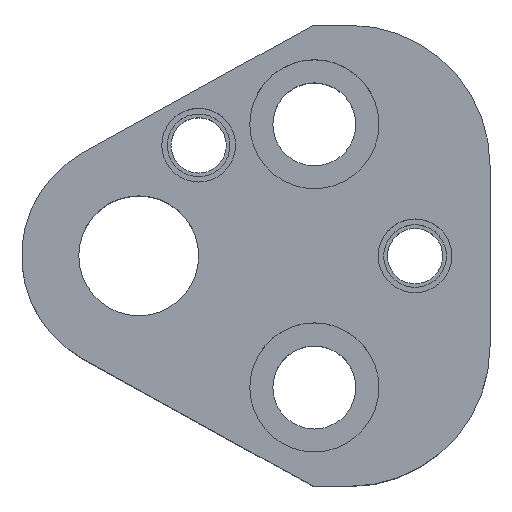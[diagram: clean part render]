
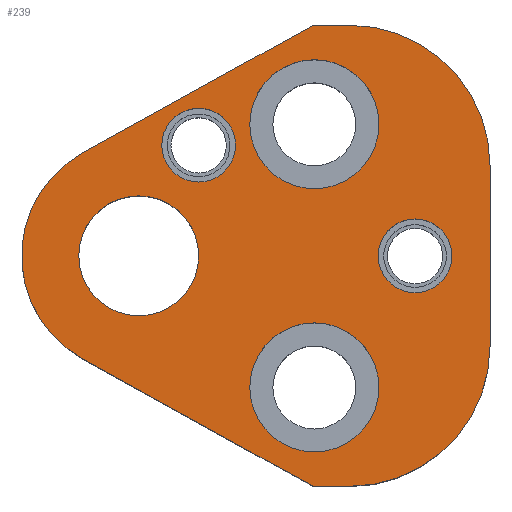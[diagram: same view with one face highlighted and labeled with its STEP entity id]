
A CAD part, top view. The second image highlights one B-rep face of the part: STEP entity #239.
In plain terms, the highlighted planar face has unit normal (0, 0, 1).
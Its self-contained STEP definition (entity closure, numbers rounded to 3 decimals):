
#113=FACE_BOUND('',#339,.T.);
#114=FACE_BOUND('',#340,.T.);
#115=FACE_BOUND('',#341,.T.);
#116=FACE_BOUND('',#342,.T.);
#117=FACE_BOUND('',#343,.T.);
#118=FACE_BOUND('',#344,.T.);
#152=CIRCLE('',#816,15.2);
#154=CIRCLE('',#820,15.2);
#157=CIRCLE('',#826,12.7);
#182=CIRCLE('',#865,4.);
#184=CIRCLE('',#868,4.);
#186=CIRCLE('',#872,4.);
#188=CIRCLE('',#875,4.);
#194=CIRCLE('',#887,7.);
#195=CIRCLE('',#888,7.);
#196=CIRCLE('',#889,7.);
#197=CIRCLE('',#890,7.);
#198=CIRCLE('',#891,6.5);
#199=CIRCLE('',#892,6.5);
#239=ADVANCED_FACE('',(#113,#114,#115,#116,#117,#118),#261,.T.);
#261=PLANE('',#893);
#339=EDGE_LOOP('',(#497,#498,#499,#500,#501,#502,#503,#504));
#340=EDGE_LOOP('',(#505,#506));
#341=EDGE_LOOP('',(#507,#508));
#342=EDGE_LOOP('',(#509,#510));
#343=EDGE_LOOP('',(#511,#512));
#344=EDGE_LOOP('',(#513,#514));
#497=ORIENTED_EDGE('',*,*,#626,.T.);
#498=ORIENTED_EDGE('',*,*,#630,.T.);
#499=ORIENTED_EDGE('',*,*,#633,.T.);
#500=ORIENTED_EDGE('',*,*,#636,.T.);
#501=ORIENTED_EDGE('',*,*,#639,.T.);
#502=ORIENTED_EDGE('',*,*,#642,.T.);
#503=ORIENTED_EDGE('',*,*,#645,.T.);
#504=ORIENTED_EDGE('',*,*,#648,.T.);
#505=ORIENTED_EDGE('',*,*,#703,.F.);
#506=ORIENTED_EDGE('',*,*,#704,.F.);
#507=ORIENTED_EDGE('',*,*,#705,.F.);
#508=ORIENTED_EDGE('',*,*,#706,.F.);
#509=ORIENTED_EDGE('',*,*,#693,.F.);
#510=ORIENTED_EDGE('',*,*,#689,.F.);
#511=ORIENTED_EDGE('',*,*,#687,.F.);
#512=ORIENTED_EDGE('',*,*,#683,.F.);
#513=ORIENTED_EDGE('',*,*,#707,.T.);
#514=ORIENTED_EDGE('',*,*,#708,.T.);
#560=VERTEX_POINT('',#1160);
#561=VERTEX_POINT('',#1162);
#564=VERTEX_POINT('',#1169);
#566=VERTEX_POINT('',#1175);
#568=VERTEX_POINT('',#1181);
#570=VERTEX_POINT('',#1187);
#572=VERTEX_POINT('',#1193);
#574=VERTEX_POINT('',#1199);
#599=VERTEX_POINT('',#1278);
#600=VERTEX_POINT('',#1279);
#603=VERTEX_POINT('',#1291);
#604=VERTEX_POINT('',#1292);
#611=VERTEX_POINT('',#1320);
#612=VERTEX_POINT('',#1321);
#613=VERTEX_POINT('',#1324);
#614=VERTEX_POINT('',#1325);
#615=VERTEX_POINT('',#1328);
#616=VERTEX_POINT('',#1329);
#626=EDGE_CURVE('',#561,#560,#726,.T.);
#630=EDGE_CURVE('',#560,#564,#730,.T.);
#633=EDGE_CURVE('',#564,#566,#152,.T.);
#636=EDGE_CURVE('',#566,#568,#734,.T.);
#639=EDGE_CURVE('',#568,#570,#154,.T.);
#642=EDGE_CURVE('',#570,#572,#738,.T.);
#645=EDGE_CURVE('',#572,#574,#741,.T.);
#648=EDGE_CURVE('',#574,#561,#157,.T.);
#683=EDGE_CURVE('',#599,#600,#182,.T.);
#687=EDGE_CURVE('',#600,#599,#184,.T.);
#689=EDGE_CURVE('',#603,#604,#186,.T.);
#693=EDGE_CURVE('',#604,#603,#188,.T.);
#703=EDGE_CURVE('',#611,#612,#194,.T.);
#704=EDGE_CURVE('',#612,#611,#195,.T.);
#705=EDGE_CURVE('',#613,#614,#196,.T.);
#706=EDGE_CURVE('',#614,#613,#197,.T.);
#707=EDGE_CURVE('',#615,#616,#198,.T.);
#708=EDGE_CURVE('',#616,#615,#199,.T.);
#726=LINE('',#1161,#770);
#730=LINE('',#1170,#774);
#734=LINE('',#1182,#778);
#738=LINE('',#1194,#782);
#741=LINE('',#1200,#785);
#770=VECTOR('',#916,1.);
#774=VECTOR('',#922,1.);
#778=VECTOR('',#934,1.);
#782=VECTOR('',#946,1.);
#785=VECTOR('',#951,1.);
#816=AXIS2_PLACEMENT_3D('',#1176,#927,#928);
#820=AXIS2_PLACEMENT_3D('',#1188,#939,#940);
#826=AXIS2_PLACEMENT_3D('',#1204,#957,#958);
#865=AXIS2_PLACEMENT_3D('',#1277,#1045,#1046);
#868=AXIS2_PLACEMENT_3D('',#1286,#1053,#1054);
#872=AXIS2_PLACEMENT_3D('',#1290,#1061,#1062);
#875=AXIS2_PLACEMENT_3D('',#1299,#1069,#1070);
#887=AXIS2_PLACEMENT_3D('',#1319,#1097,#1098);
#888=AXIS2_PLACEMENT_3D('',#1322,#1099,#1100);
#889=AXIS2_PLACEMENT_3D('',#1323,#1101,#1102);
#890=AXIS2_PLACEMENT_3D('',#1326,#1103,#1104);
#891=AXIS2_PLACEMENT_3D('',#1327,#1105,#1106);
#892=AXIS2_PLACEMENT_3D('',#1330,#1107,#1108);
#893=AXIS2_PLACEMENT_3D('',#1331,#1109,#1110);
#916=DIRECTION('',(0.875,-0.485,0.));
#922=DIRECTION('',(1.,0.,0.));
#927=DIRECTION('',(0.,0.,1.));
#928=DIRECTION('',(-0.707,0.707,0.));
#934=DIRECTION('',(0.,1.,0.));
#939=DIRECTION('',(0.,0.,1.));
#940=DIRECTION('',(-0.707,-0.707,0.));
#946=DIRECTION('',(-1.,0.,0.));
#951=DIRECTION('',(-0.875,-0.485,0.));
#957=DIRECTION('',(0.,0.,1.));
#958=DIRECTION('',(1.,0.,0.));
#1045=DIRECTION('',(0.,0.,1.));
#1046=DIRECTION('',(-1.,0.,0.));
#1053=DIRECTION('',(0.,0.,1.));
#1054=DIRECTION('',(1.,0.,0.));
#1061=DIRECTION('',(0.,0.,1.));
#1062=DIRECTION('',(-1.,0.,0.));
#1069=DIRECTION('',(0.,0.,1.));
#1070=DIRECTION('',(1.,0.,0.));
#1097=DIRECTION('',(0.,0.,1.));
#1098=DIRECTION('',(1.,0.,0.));
#1099=DIRECTION('',(0.,0.,1.));
#1100=DIRECTION('',(-1.,0.,0.));
#1101=DIRECTION('',(0.,0.,1.));
#1102=DIRECTION('',(1.,0.,0.));
#1103=DIRECTION('',(0.,0.,1.));
#1104=DIRECTION('',(-1.,0.,0.));
#1105=DIRECTION('',(0.,0.,-1.));
#1106=DIRECTION('',(-1.,0.,0.));
#1107=DIRECTION('',(0.,0.,-1.));
#1108=DIRECTION('',(1.,0.,0.));
#1109=DIRECTION('',(0.,0.,1.));
#1110=DIRECTION('',(-0.875,0.485,0.));
#1160=CARTESIAN_POINT('',(18.905,-25.,25.));
#1161=CARTESIAN_POINT('',(18.905,-25.,25.));
#1162=CARTESIAN_POINT('',(-6.157,-11.108,25.));
#1169=CARTESIAN_POINT('',(22.9,-25.,25.));
#1170=CARTESIAN_POINT('',(18.905,-25.,25.));
#1175=CARTESIAN_POINT('',(38.1,-9.8,25.));
#1176=CARTESIAN_POINT('',(22.9,-9.8,25.));
#1181=CARTESIAN_POINT('',(38.1,9.8,25.));
#1182=CARTESIAN_POINT('',(38.1,9.8,25.));
#1187=CARTESIAN_POINT('',(22.9,25.,25.));
#1188=CARTESIAN_POINT('',(22.9,9.8,25.));
#1193=CARTESIAN_POINT('',(18.905,25.,25.));
#1194=CARTESIAN_POINT('',(18.905,25.,25.));
#1199=CARTESIAN_POINT('',(-6.157,11.108,25.));
#1200=CARTESIAN_POINT('',(18.905,25.,25.));
#1204=CARTESIAN_POINT('',(0.,0.,25.));
#1277=CARTESIAN_POINT('',(6.5,12.,25.));
#1278=CARTESIAN_POINT('',(6.5,8.,25.));
#1279=CARTESIAN_POINT('',(6.5,16.,25.));
#1286=CARTESIAN_POINT('',(6.5,12.,25.));
#1290=CARTESIAN_POINT('',(29.97,0.,25.));
#1291=CARTESIAN_POINT('',(29.97,-4.,25.));
#1292=CARTESIAN_POINT('',(29.97,4.,25.));
#1299=CARTESIAN_POINT('',(29.97,0.,25.));
#1319=CARTESIAN_POINT('',(19.05,14.27,25.));
#1320=CARTESIAN_POINT('',(19.05,21.27,25.));
#1321=CARTESIAN_POINT('',(19.05,7.27,25.));
#1322=CARTESIAN_POINT('',(19.05,14.27,25.));
#1323=CARTESIAN_POINT('',(19.05,-14.27,25.));
#1324=CARTESIAN_POINT('',(19.05,-7.27,25.));
#1325=CARTESIAN_POINT('',(19.05,-21.27,25.));
#1326=CARTESIAN_POINT('',(19.05,-14.27,25.));
#1327=CARTESIAN_POINT('',(0.,0.,25.));
#1328=CARTESIAN_POINT('',(0.,6.5,25.));
#1329=CARTESIAN_POINT('',(0.,-6.5,25.));
#1330=CARTESIAN_POINT('',(0.,0.,25.));
#1331=CARTESIAN_POINT('',(-6.157,-11.108,25.));
